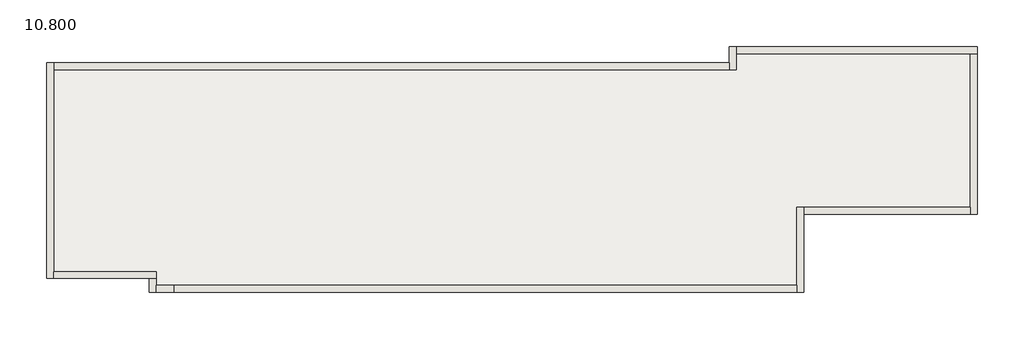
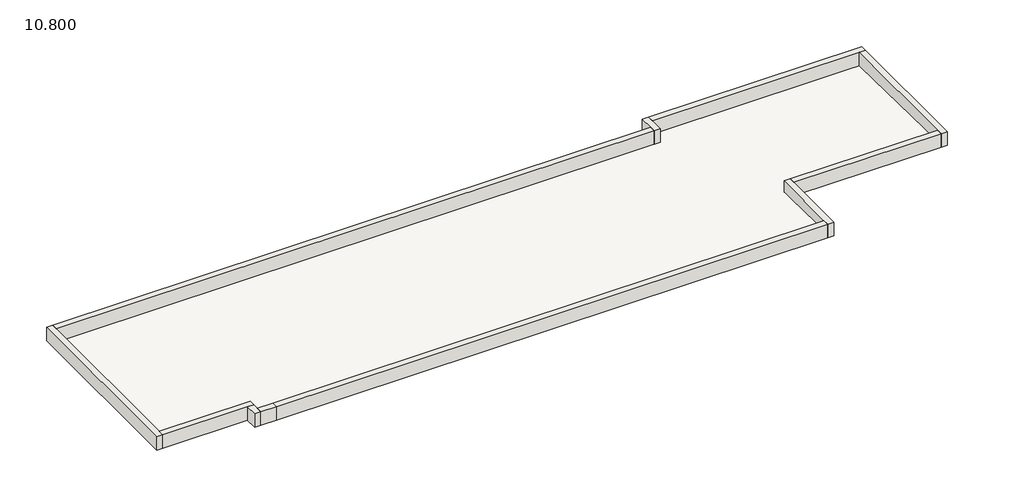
# One storey: 11 walls, 1 roof.
"""IFC4 building model written with IfcOpenShell, lengths in millimetres."""

from ifc_helpers import new_model, si_unit, frame, origin, place, context, project, spatial, polyline, outline, extrude, faceted_brep, element, save

model = new_model("IFC4")

# Units and contexts
model_context = context("Model", 3, world=origin())
ifc_project = project(units=[si_unit("LENGTHUNIT", "METRE", prefix="MILLI")], contexts=[model_context])

# Site, building, storey
site = spatial("IfcSite", under=ifc_project)
building = spatial("IfcBuilding", under=site)
storey = spatial("IfcBuildingStorey", under=building, Name="10.800", Elevation=10800.0)

# Roof
placement = place(None, origin())
element("IfcRoof", 1, ObjectType="屋顶", at=placement, inside=storey, context=model_context, shape_type="Brep", body=[
    faceted_brep([(-23229.1214542, -18268.2373497, 10700.0), (2270.8785458, -18268.2373497, 10700.0), (2270.8785458, -17668.2373497, 10687.9556107), (11010.8785458, -17668.2373497, 10687.9556107), (11010.8785458, -23408.2373497, 10803.1802681), (4530.8785458, -23408.2373497, 10803.1802681), (4530.8785458, -26328.2373497, 10861.7962958), (-19399.1214542, -26328.2373497, 10861.7962958), (-19399.1214542, -25808.2373497, 10851.3578251), (-23229.1214542, -25808.2373497, 10851.3578251), (2270.8785458, -18268.2373497, 10800.0201462), (-23229.1214542, -18268.2373497, 10800.0201462), (-23229.1214542, -25808.2373497, 10951.3779714), (-19399.1214542, -25808.2373497, 10951.3779714), (-19399.1214542, -26328.2373497, 10961.8164421), (4530.8785458, -26328.2373497, 10961.8164421), (4530.8785458, -23408.2373497, 10903.2004143), (11010.8785458, -23408.2373497, 10903.2004143), (11010.8785458, -17668.2373497, 10787.9757569), (2270.8785458, -17668.2373497, 10787.9757569)], [[[0, 1, 2, 3, 4, 5, 6, 7, 8, 9]], [[10, 11, 12, 13, 14, 15, 16, 17, 18, 19]], [[11, 10, 1, 0]], [[12, 11, 0, 9]], [[10, 19, 2, 1]], [[19, 18, 3, 2]], [[18, 17, 4, 3]], [[17, 16, 5, 4]], [[16, 15, 6, 5]], [[15, 14, 7, 6]], [[14, 13, 8, 7]], [[13, 12, 9, 8]]]),
])

# Walls
element("IfcWall", 2, ObjectType="外墙", at=placement, inside=storey, context=model_context, shape_type="Brep", body=[
    faceted_brep([(-23229.1214542, -26068.2373497, 10800.0), (-23229.1214542, -25808.2373497, 10800.0), (-23229.1214542, -18268.2373497, 10800.0), (-23229.1214542, -18008.2373497, 10800.0), (-23229.1214542, -18008.2373497, 11400.0), (-23229.1214542, -18268.2373497, 11400.0), (-23229.1214542, -25808.2373497, 11400.0), (-23229.1214542, -26068.2373497, 11400.0), (-23489.1214542, -26068.2373497, 10800.0), (-23489.1214542, -26068.2373497, 11400.0), (-23489.1214542, -18008.2373497, 11400.0), (-23489.1214542, -18008.2373497, 10800.0)], [[[0, 1, 2, 3, 4, 5, 6, 7]], [[8, 9, 10, 11]], [[3, 2, 1, 0, 8, 11]], [[7, 6, 5, 4, 10, 9]], [[4, 3, 11, 10]], [[0, 7, 9, 8]]]),
])
element("IfcWall", 3, ObjectType="外墙", at=placement, inside=storey, context=model_context, shape_type="SweptSolid", body=[
    extrude(outline(polyline([(2010.8785458, -18268.2373497), (-23229.1214542, -18268.2373497), (-23229.1214542, -18008.2373497), (2010.8785458, -18008.2373497), (2010.8785458, -18268.2373497)])), frame((0.0, 0.0, 10800.0), z_axis=(0.0, 0.0, 1.0), x_axis=(1.0, 0.0, 0.0)), (0.0, 0.0, 1.0), 600.0),
])
element("IfcWall", 4, ObjectType="外墙", at=placement, inside=storey, context=model_context, shape_type="Brep", body=[
    faceted_brep([(2270.8785458, -18268.2373497, 10800.0), (2270.8785458, -17668.2373497, 10800.0), (2270.8785458, -17408.2373497, 10800.0), (2270.8785458, -17408.2373497, 11400.0), (2270.8785458, -17668.2373497, 11400.0), (2270.8785458, -18268.2373497, 11400.0), (2010.8785458, -18268.2373497, 10800.0), (2010.8785458, -18268.2373497, 11400.0), (2010.8785458, -18008.2373497, 11400.0), (2010.8785458, -17408.2373497, 11400.0), (2010.8785458, -17408.2373497, 10800.0), (2010.8785458, -18008.2373497, 10800.0)], [[[0, 1, 2, 3, 4, 5]], [[6, 7, 8, 9, 10, 11]], [[2, 1, 0, 6, 11, 10]], [[5, 4, 3, 9, 8, 7]], [[0, 5, 7, 6]], [[3, 2, 10, 9]]]),
])
element("IfcWall", 5, ObjectType="外墙", at=placement, inside=storey, context=model_context, shape_type="Brep", body=[
    faceted_brep([(2270.8785458, -17668.2373497, 10800.0), (11010.8785458, -17668.2373497, 10800.0), (11270.8785458, -17668.2373497, 10800.0), (11270.8785458, -17668.2373497, 11400.0), (11010.8785458, -17668.2373497, 11400.0), (2270.8785458, -17668.2373497, 11400.0), (2270.8785458, -17408.2373497, 10800.0), (2270.8785458, -17408.2373497, 11400.0), (11270.8785458, -17408.2373497, 11400.0), (11270.8785458, -17408.2373497, 10800.0)], [[[0, 1, 2, 3, 4, 5]], [[6, 7, 8, 9]], [[2, 1, 0, 6, 9]], [[5, 4, 3, 8, 7]], [[0, 5, 7, 6]], [[3, 2, 9, 8]]]),
])
element("IfcWall", 6, ObjectType="外墙", at=placement, inside=storey, context=model_context, shape_type="Brep", body=[
    faceted_brep([(11010.8785458, -17668.2373497, 10800.0), (11010.8785458, -23408.2373497, 10800.0), (11010.8785458, -23668.2373497, 10800.0), (11010.8785458, -23668.2373497, 11400.0), (11010.8785458, -23408.2373497, 11400.0), (11010.8785458, -17668.2373497, 11400.0), (11270.8785458, -17668.2373497, 10800.0), (11270.8785458, -17668.2373497, 11400.0), (11270.8785458, -23668.2373497, 11400.0), (11270.8785458, -23668.2373497, 10800.0)], [[[0, 1, 2, 3, 4, 5]], [[6, 7, 8, 9]], [[2, 1, 0, 6, 9]], [[5, 4, 3, 8, 7]], [[0, 5, 7, 6]], [[3, 2, 9, 8]]]),
])
element("IfcWall", 7, ObjectType="外墙", at=placement, inside=storey, context=model_context, shape_type="SweptSolid", body=[
    extrude(outline(polyline([(4790.8785458, -23408.2373497), (11010.8785458, -23408.2373497), (11010.8785458, -23668.2373497), (4790.8785458, -23668.2373497), (4790.8785458, -23408.2373497)])), frame((0.0, 0.0, 10800.0), z_axis=(0.0, 0.0, 1.0), x_axis=(1.0, 0.0, 0.0)), (0.0, 0.0, 1.0), 600.0),
])
element("IfcWall", 8, ObjectType="外墙", at=placement, inside=storey, context=model_context, shape_type="Brep", body=[
    faceted_brep([(4530.8785458, -23408.2373497, 10800.0), (4530.8785458, -26328.2373497, 10800.0), (4530.8785458, -26588.2373497, 10800.0), (4530.8785458, -26588.2373497, 11400.0), (4530.8785458, -26328.2373497, 11400.0), (4530.8785458, -23408.2373497, 11400.0), (4790.8785458, -23408.2373497, 10800.0), (4790.8785458, -23408.2373497, 11400.0), (4790.8785458, -23668.2373497, 11400.0), (4790.8785458, -26588.2373497, 11400.0), (4790.8785458, -26588.2373497, 10800.0), (4790.8785458, -23668.2373497, 10800.0)], [[[0, 1, 2, 3, 4, 5]], [[6, 7, 8, 9, 10, 11]], [[2, 1, 0, 6, 11, 10]], [[5, 4, 3, 9, 8, 7]], [[0, 5, 7, 6]], [[3, 2, 10, 9]]]),
])
element("IfcWall", 9, ObjectType="外墙", at=placement, inside=storey, context=model_context, shape_type="SweptSolid", body=[
    extrude(outline(polyline([(-18739.1214542, -26588.2373497), (-19399.1214542, -26588.2373497), (-19399.1214542, -26328.2373497), (-18739.1214542, -26328.2373497), (-18739.1214542, -26588.2373497)])), frame((0.0, 0.0, 10800.0), z_axis=(0.0, 0.0, 1.0), x_axis=(1.0, 0.0, 0.0)), (0.0, 0.0, 1.0), 600.0),
])
element("IfcWall", 10, ObjectType="外墙", at=placement, inside=storey, context=model_context, shape_type="Brep", body=[
    faceted_brep([(-23229.1214542, -26068.2373497, 10800.0), (-19659.1214542, -26068.2373497, 10800.0), (-19399.1214542, -26068.2373497, 10800.0), (-19399.1214542, -26068.2373497, 11400.0), (-19659.1214542, -26068.2373497, 11400.0), (-23229.1214542, -26068.2373497, 11400.0), (-23229.1214542, -25808.2373497, 10800.0), (-23229.1214542, -25808.2373497, 11400.0), (-19399.1214542, -25808.2373497, 11400.0), (-19399.1214542, -25808.2373497, 10800.0)], [[[0, 1, 2, 3, 4, 5]], [[6, 7, 8, 9]], [[2, 1, 0, 6, 9]], [[5, 4, 3, 8, 7]], [[3, 2, 9, 8]], [[0, 5, 7, 6]]]),
])
element("IfcWall", 11, ObjectType="外墙", at=placement, inside=storey, context=model_context, shape_type="Brep", body=[
    faceted_brep([(-19659.1214542, -26068.2373497, 10800.0), (-19659.1214542, -26588.2373497, 10800.0), (-19659.1214542, -26588.2373497, 11400.0), (-19659.1214542, -26068.2373497, 11400.0), (-19399.1214542, -26068.2373497, 10800.0), (-19399.1214542, -26068.2373497, 11400.0), (-19399.1214542, -26328.2373497, 11400.0), (-19399.1214542, -26588.2373497, 11400.0), (-19399.1214542, -26588.2373497, 10800.0), (-19399.1214542, -26328.2373497, 10800.0)], [[[0, 1, 2, 3]], [[4, 5, 6, 7, 8, 9]], [[1, 0, 4, 9, 8]], [[3, 2, 7, 6, 5]], [[0, 3, 5, 4]], [[2, 1, 8, 7]]]),
])
element("IfcWall", 12, ObjectType="外墙", at=placement, inside=storey, context=model_context, shape_type="SweptSolid", body=[
    extrude(outline(polyline([(4530.8785458, -26588.2373497), (-18739.1214542, -26588.2373497), (-18739.1214542, -26328.2373497), (4530.8785458, -26328.2373497), (4530.8785458, -26588.2373497)])), frame((0.0, 0.0, 10800.0), z_axis=(0.0, 0.0, 1.0), x_axis=(1.0, 0.0, 0.0)), (0.0, 0.0, 1.0), 600.0),
])

save(model, "model.ifc")
